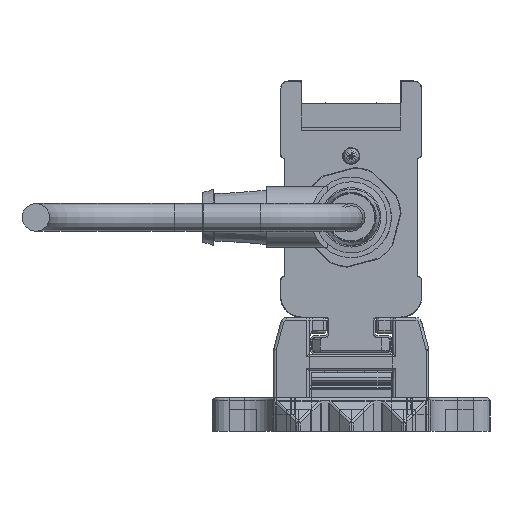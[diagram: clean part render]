
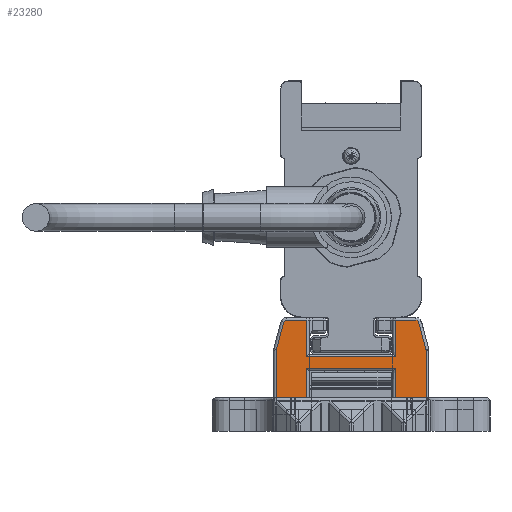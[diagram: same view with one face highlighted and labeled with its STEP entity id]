
A CAD part, left-side view. The second image highlights one B-rep face of the part: STEP entity #23280.
In plain terms, the highlighted planar face has unit normal (-1, 0, 0).
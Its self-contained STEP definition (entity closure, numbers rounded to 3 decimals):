
#23280=ADVANCED_FACE('', (#23290), #23300, .T.);
#141290=AXIS2_PLACEMENT_3D('Ax2Pl3d', #141300, #141310, #141320);
#141530=AXIS2_PLACEMENT_3D('Ax2Pl3d', #141540, #141550, #141560);
#146410=AXIS2_PLACEMENT_3D('Ax2Pl3d', #146420, #146430, #146440);
#151490=AXIS2_PLACEMENT_3D('Ax2Pl3d', #151500, #151510, #151520);
#161170=AXIS2_PLACEMENT_3D('Ax2Pl3d', #161180, #161190, #161200);
#583560=CARTESIAN_POINT('', (-747.669,-3206.345,
331.37));
#141300=CARTESIAN_POINT('HicPkt', (-747.669,-3205.379,
331.111));
#583570=CARTESIAN_POINT('', (-747.669,-3206.379,
331.111));
#583580=CARTESIAN_POINT('', (-747.669,-3205.037,
336.255));
#583600=CARTESIAN_POINT('', (-747.669,-3205.037,
336.255));
#583630=CARTESIAN_POINT('', (-747.669,-3204.554,
336.625));
#141540=CARTESIAN_POINT('HicPkt', (-747.669,-3204.554,
336.125));
#583850=CARTESIAN_POINT('', (-747.669,-3206.379,
322.625));
#583860=CARTESIAN_POINT('', (-747.669,-3200.881,
322.625));
#583870=CARTESIAN_POINT('', (-747.669,-3200.881,
322.625));
#583950=CARTESIAN_POINT('', (-747.669,-3184.881,
322.625));
#583960=CARTESIAN_POINT('', (-747.669,-3179.383,
322.625));
#583970=CARTESIAN_POINT('', (-747.669,-3179.383,
322.625));
#146420=CARTESIAN_POINT('HicPkt', (-747.669,-3181.209,
336.125));
#586440=CARTESIAN_POINT('', (-747.669,-3180.726,
336.255));
#586450=CARTESIAN_POINT('', (-747.669,-3181.209,
336.625));
#586460=CARTESIAN_POINT('', (-747.669,-3200.881,
330.025));
#586470=CARTESIAN_POINT('', (-747.669,-3184.881,
330.025));
#586480=CARTESIAN_POINT('', (-747.669,-3200.881,
330.025));
#586640=CARTESIAN_POINT('', (-747.669,-3200.881,
328.005));
#586650=CARTESIAN_POINT('', (-747.669,-3184.881,
328.005));
#586660=CARTESIAN_POINT('', (-747.669,-3184.881,
328.005));
#586670=CARTESIAN_POINT('', (-747.669,-3200.881,
328.005));
#586690=CARTESIAN_POINT('', (-747.669,-3184.881,
322.625));
#586700=CARTESIAN_POINT('', (-747.669,-3184.881,
330.025));
#586710=CARTESIAN_POINT('', (-747.669,-3184.881,
336.625));
#587560=CARTESIAN_POINT('', (-747.669,-3184.881,
336.625));
#587570=CARTESIAN_POINT('', (-747.669,-3180.726,
336.255));
#587580=CARTESIAN_POINT('', (-747.669,-3179.417,
331.37));
#587770=CARTESIAN_POINT('', (-747.669,-3179.383,
331.111));
#587780=CARTESIAN_POINT('', (-747.669,-3179.383,
331.111));
#151500=CARTESIAN_POINT('HicPkt', (-747.669,-3180.383,
331.111));
#588590=CARTESIAN_POINT('', (-747.669,-3206.379,
331.111));
#161180=CARTESIAN_POINT('HicPkt', (-747.669,-3204.554,
336.625));
#590390=CARTESIAN_POINT('', (-747.669,-3200.881,
336.625));
#590400=CARTESIAN_POINT('', (-747.669,-3200.881,
336.625));
#590410=CARTESIAN_POINT('', (-747.669,-3200.881,
336.625));
#675070=CIRCLE('Circle', #141290, 1.);
#675110=CIRCLE('Circle', #141530, 0.5);
#675690=CIRCLE('Circle', #146410, 0.5);
#676220=CIRCLE('Circle', #151490, 1.);
#141310=DIRECTION('Axis', (-1.,0.,
0.));
#141320=DIRECTION('RefDirection', (0.,
0.,-1.));
#942570=DIRECTION('', (0.,0.259,
0.966));
#141550=DIRECTION('Axis', (-1.,0.,
0.));
#141560=DIRECTION('RefDirection', (0.,
0.,-1.));
#942680=DIRECTION('', (0.,1.,0.));
#942720=DIRECTION('', (0.,1.,0.));
#146430=DIRECTION('Axis', (1.,0.,
0.));
#146440=DIRECTION('RefDirection', (0.,
0.,-1.));
#943910=DIRECTION('', (0.,-1.,0.));
#944010=DIRECTION('', (0.,1.,0.));
#944020=DIRECTION('', (0.,0.,1.));
#944040=DIRECTION('', (0.,0.,-1.));
#944050=DIRECTION('', (0.,0.,-1.));
#944480=DIRECTION('', (0.,-1.,0.));
#944490=DIRECTION('', (0.,-0.259,0.966));
#944580=DIRECTION('', (0.,0.,1.));
#151510=DIRECTION('Axis', (1.,0.,
0.));
#151520=DIRECTION('RefDirection', (0.,
0.,-1.));
#944950=DIRECTION('', (0.,0.,1.));
#161190=DIRECTION('Axis', (-1.,0.,
0.));
#161200=DIRECTION('RefDirection', (0.,
0.,-1.));
#945790=DIRECTION('', (0.,1.,0.));
#945800=DIRECTION('', (0.,0.,1.));
#1009400=EDGE_CURVE('', #1009410, #1009390, #675070, .T.);
#1009460=EDGE_CURVE('', #1009390, #1009440, #1009470, .T.);
#1009530=EDGE_CURVE('', #1009440, #1009520, #675110, .T.);
#1009980=EDGE_CURVE('', #1009970, #1009990, #1010000, .T.);
#1010140=EDGE_CURVE('', #1010130, #1010150, #1010160, .T.);
#1014500=EDGE_CURVE('', #1014510, #1014520, #675690, .T.);
#1014550=EDGE_CURVE('', #1014560, #1014570, #1014580, .T.);
#1014920=EDGE_CURVE('', #1014900, #1014930, #1014940, .T.);
#1014970=EDGE_CURVE('', #1009990, #1014900, #1014980, .T.);
#1015010=EDGE_CURVE('', #1014930, #1010130, #1015020, .T.);
#1015030=EDGE_CURVE('', #1015040, #1014560, #1015050, .T.);
#1016870=EDGE_CURVE('', #1014520, #1015040, #1016880, .T.);
#1016940=EDGE_CURVE('', #1016950, #1014510, #1016960, .T.);
#1017380=EDGE_CURVE('', #1010150, #1017390, #1017400, .T.);
#1017420=EDGE_CURVE('', #1017390, #1016950, #676220, .T.);
#1019130=EDGE_CURVE('', #1009970, #1009410, #1019140, .T.);
#1022940=EDGE_CURVE('', #1009520, #1022950, #1022960, .T.);
#1022970=EDGE_CURVE('', #1014570, #1022950, #1022980, .T.);
#1216860=EDGE_LOOP('Edge_loop', (#1216870,#1216880,#1216890,#1216900,
#1216910,#1216920,#1216930,#1216940,#1216950,#1216960,#1216970,
#1216980,#1216990,#1217000,#1217010,#1217020,#1217030,#1217040));
#23290=FACE_OUTER_BOUND('Face_outer_bound', #1216860, .T.);
#1009470=LINE('Line', #583600, #1391440);
#1010000=LINE('Line', #583860, #1391550);
#1010160=LINE('Line', #583960, #1391590);
#1014580=LINE('Line', #586460, #1392780);
#1014940=LINE('Line', #586650, #1392880);
#1014980=LINE('Line', #586670, #1392890);
#1015020=LINE('Line', #586690, #1392910);
#1015050=LINE('Line', #586700, #1392920);
#1016880=LINE('Line', #587560, #1393350);
#1016960=LINE('Line', #587570, #1393360);
#1017400=LINE('Line', #587770, #1393450);
#1019140=LINE('Line', #588590, #1393820);
#1022960=LINE('Line', #590390, #1394660);
#1022980=LINE('Line', #590410, #1394670);
#1216870=ORIENTED_EDGE('', *, *, #1022940, .T.);
#1216880=ORIENTED_EDGE('', *, *, #1022970, .F.);
#1216890=ORIENTED_EDGE('', *, *, #1014550, .F.);
#1216900=ORIENTED_EDGE('', *, *, #1015030, .F.);
#1216910=ORIENTED_EDGE('', *, *, #1016870, .F.);
#1216920=ORIENTED_EDGE('', *, *, #1014500, .F.);
#1216930=ORIENTED_EDGE('', *, *, #1016940, .F.);
#1216940=ORIENTED_EDGE('', *, *, #1017420, .F.);
#1216950=ORIENTED_EDGE('', *, *, #1017380, .F.);
#1216960=ORIENTED_EDGE('', *, *, #1010140, .F.);
#1216970=ORIENTED_EDGE('', *, *, #1015010, .F.);
#1216980=ORIENTED_EDGE('', *, *, #1014920, .F.);
#1216990=ORIENTED_EDGE('', *, *, #1014970, .F.);
#1217000=ORIENTED_EDGE('', *, *, #1009980, .F.);
#1217010=ORIENTED_EDGE('', *, *, #1019130, .T.);
#1217020=ORIENTED_EDGE('', *, *, #1009400, .T.);
#1217030=ORIENTED_EDGE('', *, *, #1009460, .T.);
#1217040=ORIENTED_EDGE('', *, *, #1009530, .T.);
#23300=PLANE('Plane', #161170);
#1391440=VECTOR('', #942570, 5.057);
#1391550=VECTOR('', #942680, 5.498);
#1391590=VECTOR('', #942720, 5.498);
#1392780=VECTOR('', #943910, 16.);
#1392880=VECTOR('', #944010, 16.);
#1392890=VECTOR('', #944020, 5.38);
#1392910=VECTOR('', #944040, 5.38);
#1392920=VECTOR('', #944050, 6.6);
#1393350=VECTOR('', #944480, 3.672);
#1393360=VECTOR('', #944490, 5.057);
#1393450=VECTOR('', #944580, 8.486);
#1393820=VECTOR('', #944950, 8.486);
#1394660=VECTOR('', #945790, 3.672);
#1394670=VECTOR('', #945800, 6.6);
#1009390=VERTEX_POINT('', #583560);
#1009410=VERTEX_POINT('', #583570);
#1009440=VERTEX_POINT('', #583580);
#1009520=VERTEX_POINT('', #583630);
#1009970=VERTEX_POINT('', #583850);
#1009990=VERTEX_POINT('', #583870);
#1010130=VERTEX_POINT('', #583950);
#1010150=VERTEX_POINT('', #583970);
#1014510=VERTEX_POINT('', #586440);
#1014520=VERTEX_POINT('', #586450);
#1014560=VERTEX_POINT('', #586470);
#1014570=VERTEX_POINT('', #586480);
#1014900=VERTEX_POINT('', #586640);
#1014930=VERTEX_POINT('', #586660);
#1015040=VERTEX_POINT('', #586710);
#1016950=VERTEX_POINT('', #587580);
#1017390=VERTEX_POINT('', #587780);
#1022950=VERTEX_POINT('', #590400);
